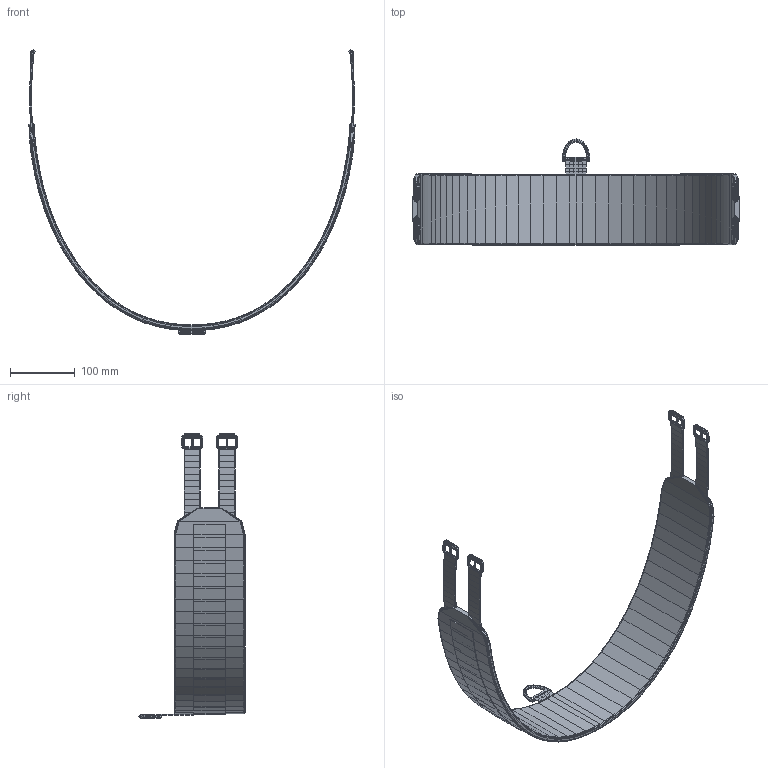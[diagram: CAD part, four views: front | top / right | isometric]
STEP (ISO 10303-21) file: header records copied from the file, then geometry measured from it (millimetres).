
FILE_DESCRIPTION(('AVO Performance Horse - montaje de la cincha (B-rep poliedrico)'),'2;1');
FILE_NAME('Cincha','2026-11-15T12:00:00',('AVO Performance Horse'),('AVO Performance Horse'),'avo_cad.py','avo_cad.py (numpy)','');
FILE_SCHEMA(('AUTOMOTIVE_DESIGN { 1 0 10303 214 1 1 1 1 }'));
Length unit declared in the file: millimetre
Products named in the file (1): Cincha
Bounding box: 505.59 x 164.5 x 440.16 mm (x, y, z)
Volume: 862486.1 mm3; surface area: 331198.3 mm2
Topology: 20 solids, 20 shells, 3830 faces, 6604 edges, 2804 vertices
Faces by surface type: plane 3830
Entity records: 67011 total; most frequent: ORIENTED_EDGE 13208, DIRECTION 9018, VECTOR 6604, LINE 6604, EDGE_CURVE 6604, AXIS2_PLACEMENT_3D 3831, EDGE_LOOP 3830, FACE_OUTER_BOUND 3830
